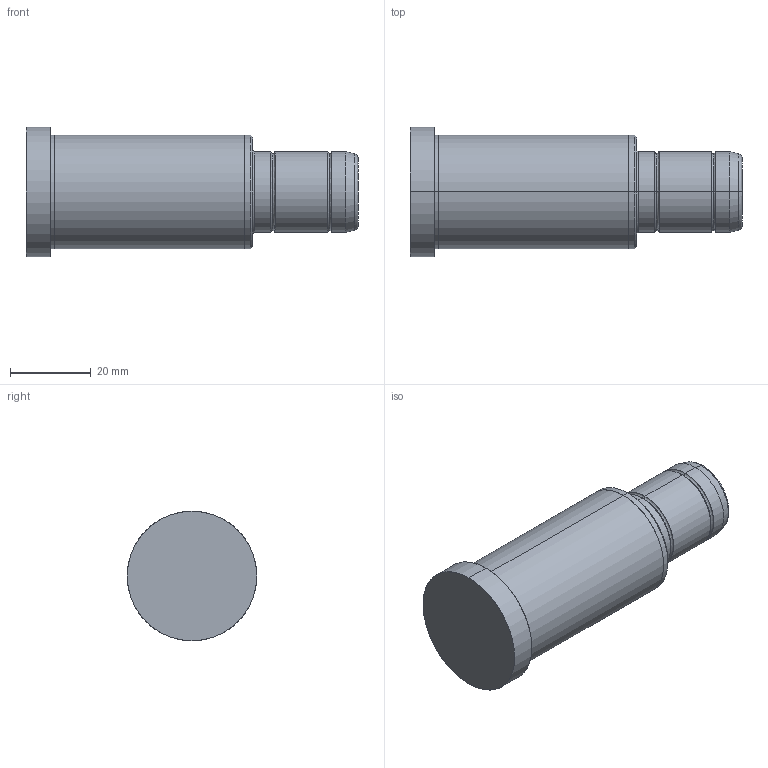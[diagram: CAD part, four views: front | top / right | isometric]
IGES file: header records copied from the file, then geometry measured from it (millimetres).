
Start section: SolidWorks IGES file using analytic representation for surfaces
Global section: file name: C:\Documents and Settings\kalite-mail\Desktop\IGS\D02\20\D02 - 20x56x26.IGS; native system: SolidWorks 2008; preprocessor: SolidWorks 2008; author: kalite-mail; date: 080616.162726; units: millimetre
Bounding box: 82 x 32 x 32 mm (x, y, z)
Surface area: 8211.2 mm2 (no closed solid volume)
Topology: 0 solids, 0 shells, 36 faces, 664 edges, 664 vertices
Faces by surface type: bspline 18, revolution 18
